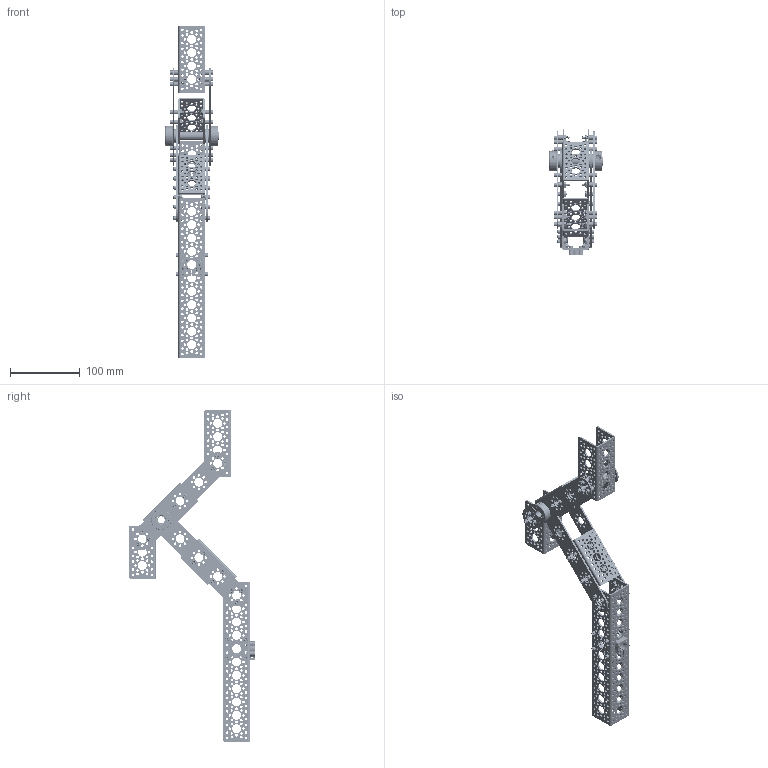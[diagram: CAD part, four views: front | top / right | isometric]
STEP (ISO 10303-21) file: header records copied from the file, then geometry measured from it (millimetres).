
FILE_DESCRIPTION (( 'STEP AP214' ), '1' );
FILE_NAME ('Rocker-Bogie Assembly.STEP', '2018-04-03T23:04:25', ( '' ), ( '' ), 'SwSTEP 2.0', 'SolidWorks 2016', '' );
FILE_SCHEMA (( 'AUTOMOTIVE_DESIGN' ));
Length unit declared in the file: inch
Products named in the file (19): 0.5 Bore Side Tapped Clamping Hub; .5in Collared Clamp_6157K14; 0.5 Pillow Bearing Block; 0.5 Bearing Block; 0.5 Nylon Plastic Washer; 6-32_SHCS_6-32 SHCS X .750; Pattern F Bracket; 3.75 Aluminum Channel; 9 Aluminum Channel; 6-32_SHCS_6-32 SHCS X .375; Rocker-Bogie Assembly; 545600; 6-32 Washer; 6-32_L0_25 Spacer; 3 Aluminum Channel; 0.5 Bearing; 3inch Aluminum Rod; hex_nut_#6-32; 3 Aluminum Channel Mod
Assembly tree (134 placements, depth 3):
  Rocker-Bogie Assembly
    9 Aluminum Channel
    Pattern F Bracket  x4
    3 Aluminum Channel Mod  x2
    6-32 Washer  x14
    6-32_SHCS_6-32 SHCS X .375  x26
    hex_nut_#6-32  x38
    3inch Aluminum Rod
    .5in Collared Clamp_6157K14  x2
    0.5 Nylon Plastic Washer  x6
    6-32_L0_25 Spacer  x16
    6-32_SHCS_6-32 SHCS X .750  x16
    3.75 Aluminum Channel
    0.5 Pillow Bearing Block  x2
      0.5 Bearing
      0.5 Bearing Block
    0.5 Bore Side Tapped Clamping Hub
      545600
    3 Aluminum Channel
Bounding box: 76.2 x 180.03 x 474.44 mm (x, y, z)
Volume: 168702.2 mm3; surface area: 210943.9 mm2
Topology: 139 solids, 139 shells, 9157 faces, 24461 edges, 15611 vertices
Faces by surface type: cylinder 6276, cone 1487, plane 1222, bspline 142, torus 30
Entity records: 112519 total; most frequent: CARTESIAN_POINT 36452, DIRECTION 16317, ORIENTED_EDGE 15166, EDGE_CURVE 7583, AXIS2_PLACEMENT_3D 6826, VERTEX_POINT 5017, EDGE_LOOP 4472, CIRCLE 4104
